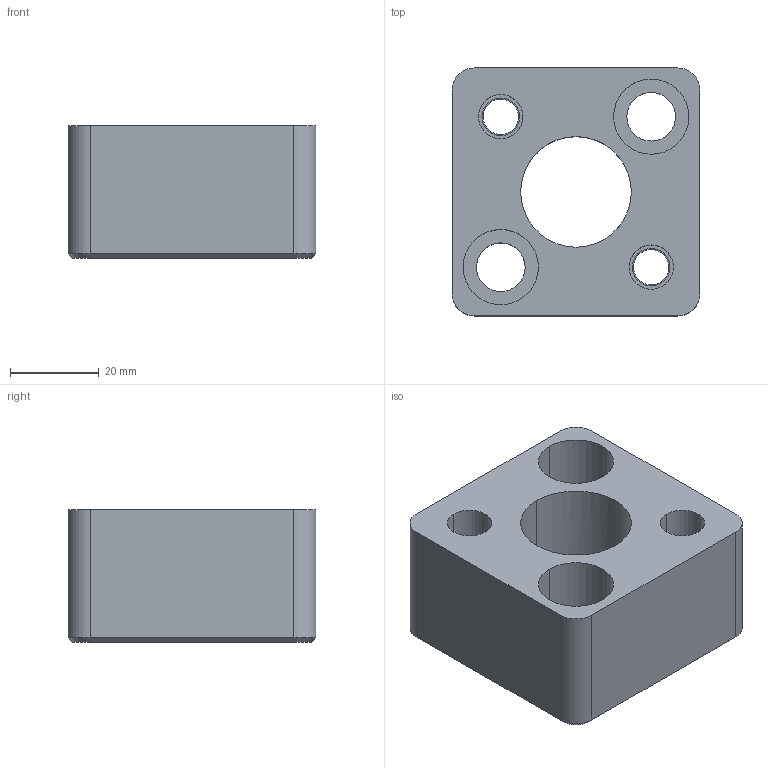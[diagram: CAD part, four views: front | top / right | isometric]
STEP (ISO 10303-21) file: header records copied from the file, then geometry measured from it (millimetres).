
FILE_DESCRIPTION(/* description */ (''),/* implementation_level */ '2;1');
FILE_NAME(/* name */ '3d_hsr-fn25_04200_r00.stp',/* time_stamp */ '2011-01-10T14:14:34+09:00',/* author */ ('MISUMI'),/* organization */ (''),/* preprocessor_version */ 'ST-DEVELOPER v11',/* originating_system */ 'UGS - NX 5.0',/* authorisation */ '');
FILE_SCHEMA (('CONFIG_CONTROL_DESIGN'));
Length unit declared in the file: millimetre
Products named in the file (1): 3d_hsr-fn25_04200_r00
Bounding box: 56 x 56 x 30 mm (x, y, z)
Volume: 64893.5 mm3; surface area: 17660 mm2
Topology: 1 solids, 1 shells, 55 faces, 133 edges, 86 vertices
Faces by surface type: cylinder 29, plane 20, cone 6
Entity records: 1739 total; most frequent: DIRECTION 305, CARTESIAN_POINT 290, ORIENTED_EDGE 266, EDGE_CURVE 133, AXIS2_PLACEMENT_3D 121, VERTEX_POINT 86, EDGE_LOOP 71, CIRCLE 65
